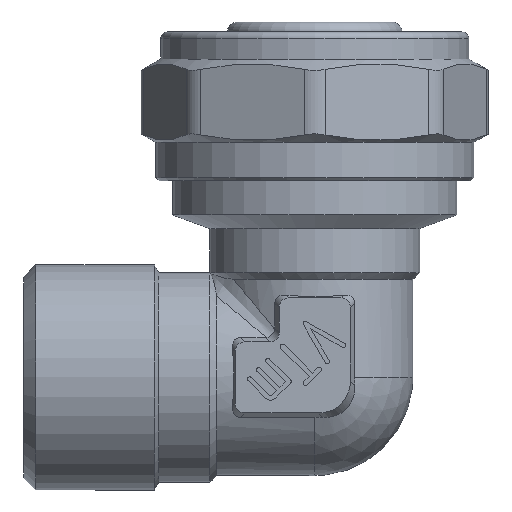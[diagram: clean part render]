
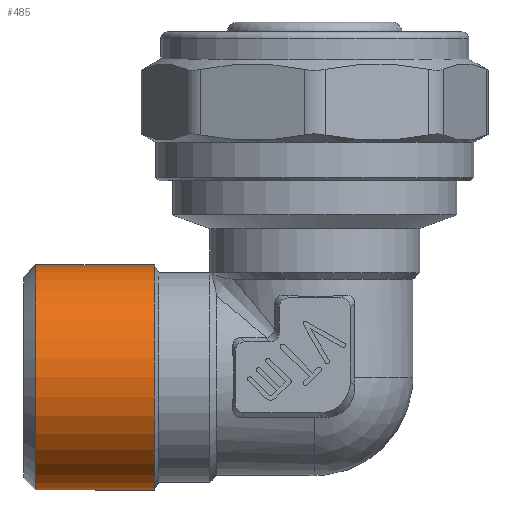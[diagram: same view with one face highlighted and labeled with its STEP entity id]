
A CAD part, left-side view. The second image highlights one B-rep face of the part: STEP entity #485.
In plain terms, the highlighted cylindrical face has radius 16.625 mm (diameter 33.249 mm), a full revolution.
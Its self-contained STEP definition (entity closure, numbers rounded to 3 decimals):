
#485=ADVANCED_FACE('',(#3533,#3535),#3537,.T.);
#3533=FACE_OUTER_BOUND('',#3534,.T.);
#3534=EDGE_LOOP('',(#6760));
#3535=FACE_OUTER_BOUND('',#3536,.T.);
#3536=EDGE_LOOP('',(#6761));
#3537=CYLINDRICAL_SURFACE('',#3538,16.625);
#3538=AXIS2_PLACEMENT_3D('',#3539,#3540,#3541);
#3539=CARTESIAN_POINT('',(0.,23.7,0.));
#3540=DIRECTION('',(0.,1.,0.));
#3541=DIRECTION('',(-1.,0.,0.));
#6760=ORIENTED_EDGE('',*,*,#8085,.F.);
#6761=ORIENTED_EDGE('',*,*,#7949,.F.);
#7949=EDGE_CURVE('',#9915,#9915,#9916,.F.);
#8085=EDGE_CURVE('',#10120,#10120,#10121,.T.);
#9915=VERTEX_POINT('',#16537);
#9916=CIRCLE('',#16538,16.625);
#10120=VERTEX_POINT('',#17016);
#10121=CIRCLE('',#17017,16.625);
#16537=CARTESIAN_POINT('',(-16.625,23.7,0.));
#16538=AXIS2_PLACEMENT_3D('',#16539,#16540,#16541);
#16539=CARTESIAN_POINT('',(0.,23.7,0.));
#16540=DIRECTION('',(0.,1.,0.));
#16541=DIRECTION('',(-1.,0.,0.));
#17016=CARTESIAN_POINT('',(-16.625,41.2,0.));
#17017=AXIS2_PLACEMENT_3D('',#17018,#17019,#17020);
#17018=CARTESIAN_POINT('',(0.,41.2,0.));
#17019=DIRECTION('',(0.,1.,0.));
#17020=DIRECTION('',(-1.,0.,0.));
